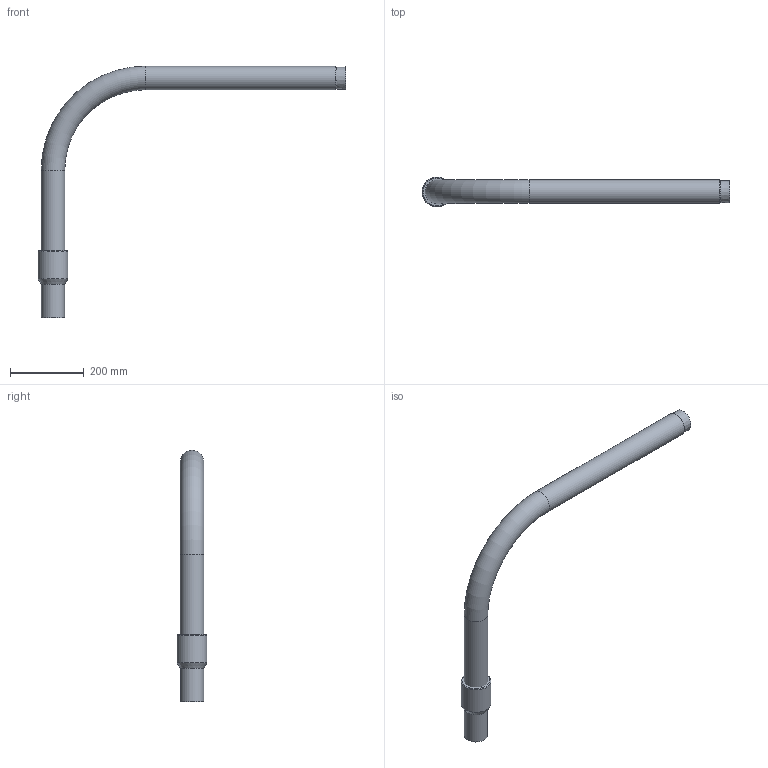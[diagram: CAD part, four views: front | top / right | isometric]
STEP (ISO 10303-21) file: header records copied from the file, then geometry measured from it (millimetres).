
FILE_DESCRIPTION(/* description */ ('Unknown'),/* implementation_level */ '2;1');
FILE_NAME(/* name */ 'RTFZCRP063C',/* time_stamp */ '2022-07-14T11:19:46+02:00',/* author */ ('Unknown'),/* organization */ ('Unknown'),/* preprocessor_version */ 'ST-DEVELOPER v18.102',/* originating_system */ 'Solid Edge',/* authorisation */ 'Unknown');
FILE_SCHEMA (('AUTOMOTIVE_DESIGN {1 0 10303 214 3 1 1}'));
Length unit declared in the file: millimetre
Products named in the file (3): RTFZCRP063C; Parte Acciaio; Parte PE
Assembly tree (2 placements, depth 2):
  RTFZCRP063C
    Parte Acciaio
    Parte PE
Bounding box: 835.51 x 80.92 x 682 mm (x, y, z)
Volume: 1507990.1 mm3; surface area: 528763.2 mm2
Topology: 2 solids, 2 shells, 19 faces, 34 edges, 20 vertices
Faces by surface type: cylinder 8, plane 5, torus 3, cone 3
Full cylindrical faces by diameter (mm): 51.4 x1, 53.1 x2, 60.3 x1, 63 x1, 63.9 x2, 81 x1
Entity records: 532 total; most frequent: DIRECTION 82, CARTESIAN_POINT 60, AXIS2_PLACEMENT_3D 41, ORIENTED_EDGE 38, EDGE_LOOP 38, FACE_BOUND 38, EDGE_CURVE 19, VERTEX_POINT 19
